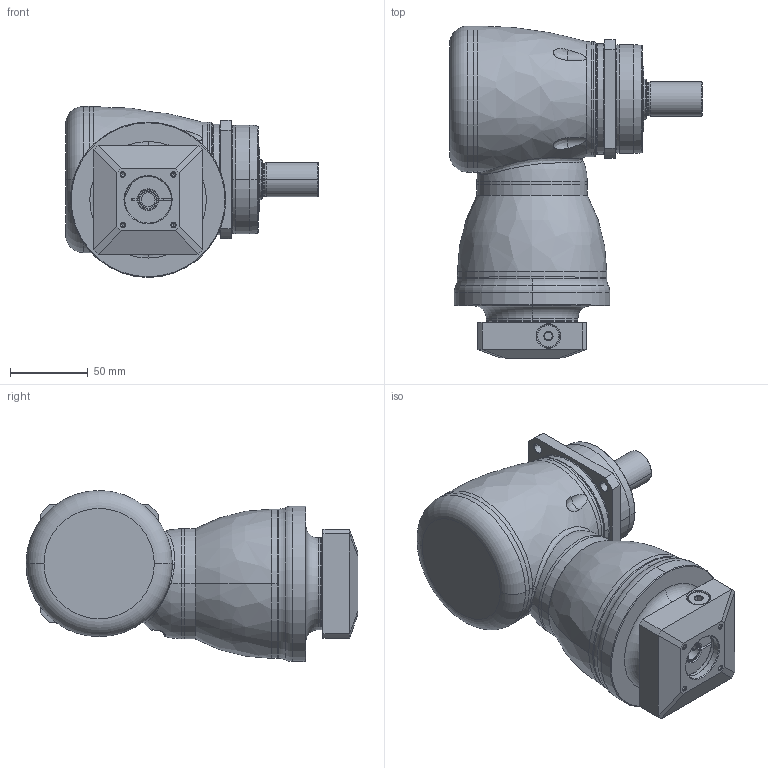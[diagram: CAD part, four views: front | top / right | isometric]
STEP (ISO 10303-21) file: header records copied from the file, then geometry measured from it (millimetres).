
FILE_DESCRIPTION((''),'2;1');
FILE_NAME('KF075_1ST_11-P0409200101_ASM','2016-06-21T',('d01943'),(''),'PRO/ENGINEER BY PARAMETRIC TECHNOLOGY CORPORATION, 2008410','PRO/ENGINEER BY PARAMETRIC TECHNOLOGY CORPORATION, 2008410','');
FILE_SCHEMA(('CONFIG_CONTROL_DESIGN'));
Length unit declared in the file: millimetre
Products named in the file (11): P1008300002; P1804300001; P0915300001; P1315300001; P1007300001; P1318300001; P0409200101; P0503200005; P0912300001; 21711410012; KF075_1ST_11-P0409200101_ASM
Assembly tree (10 placements, depth 2):
  KF075_1ST_11-P0409200101_ASM
    P1008300002
    P1804300001
    P0915300001
    P1315300001
    P1007300001
    P1318300001
    P0409200101
    P0503200005
    P0912300001
    21711410012
Bounding box: 162.5 x 213.5 x 110 mm (x, y, z)
Volume: 1064951.6 mm3; surface area: 182378.1 mm2
Topology: 11 solids, 11 shells, 463 faces, 1065 edges, 635 vertices
Faces by surface type: cylinder 147, cone 108, plane 86, torus 72, bspline 48, sphere 2
Entity records: 20596 total; most frequent: CARTESIAN_POINT 10120, DIRECTION 2264, ORIENTED_EDGE 2068, EDGE_CURVE 1034, AXIS2_PLACEMENT_3D 970, VERTEX_POINT 628, CIRCLE 534, EDGE_LOOP 524
